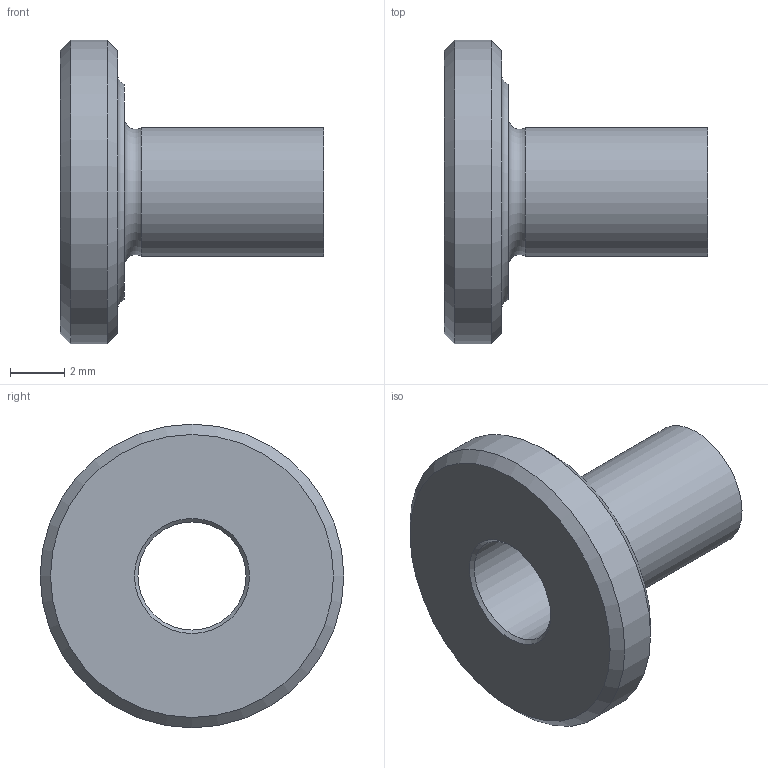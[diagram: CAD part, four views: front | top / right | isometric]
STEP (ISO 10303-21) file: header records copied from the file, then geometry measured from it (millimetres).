
FILE_DESCRIPTION( ( 'STEP AP214' ), '1' );
FILE_NAME( 'p:/temp/worker_53/temp/app_56_02019012316282015554770192d056f_000000_00_00_000000/format_0/M1PWBC.stp', '2019-01-23T15:28:20', ( '' ), ( '' ), ' ', 'PARTsolutions', ' ' );
FILE_SCHEMA( ( 'AUTOMOTIVE_DESIGN { 1 0 10303 214 1 1 1 1 }' ) );
Length unit declared in the file: inch
Products named in the file (1): _M1PWBC
Bounding box: 9.7 x 11.18 x 11.18 mm (x, y, z)
Volume: 224.5 mm3; surface area: 459.6 mm2
Topology: 1 solids, 1 shells, 13 faces, 22 edges, 13 vertices
Faces by surface type: plane 4, cone 4, cylinder 3, torus 2
Full cylindrical faces by diameter (mm): 3.98 x1, 4.75 x1, 11.18 x1
Entity records: 388 total; most frequent: DIRECTION 54, CARTESIAN_POINT 40, AXIS2_PLACEMENT_3D 27, EDGE_LOOP 26, ORIENTED_EDGE 26, FACE_OUTER_BOUND 18, STYLED_ITEM 13, PRESENTATION_STYLE_ASSIGNMENT 13
